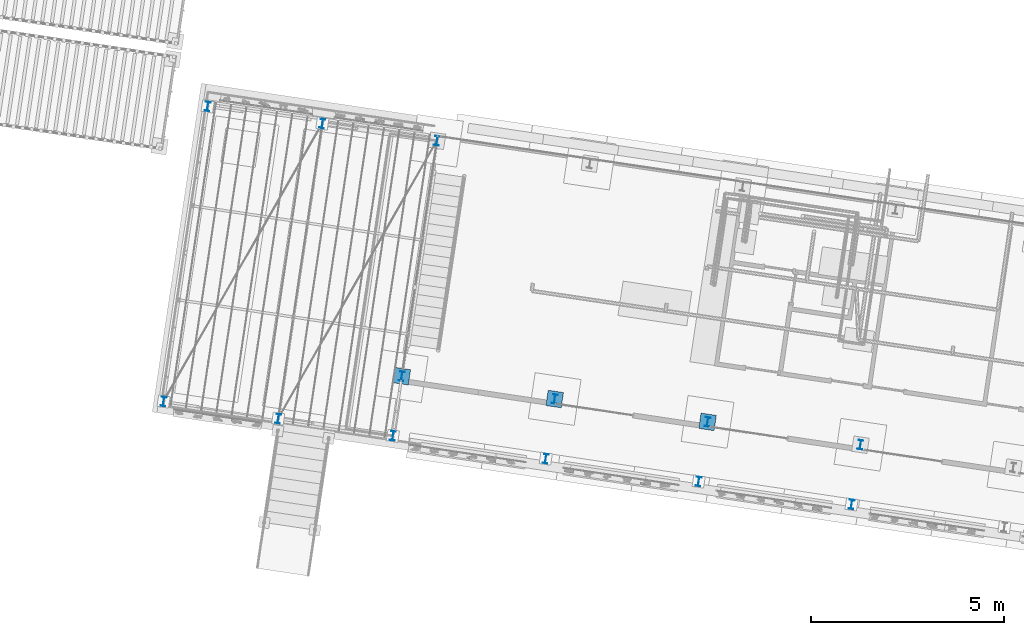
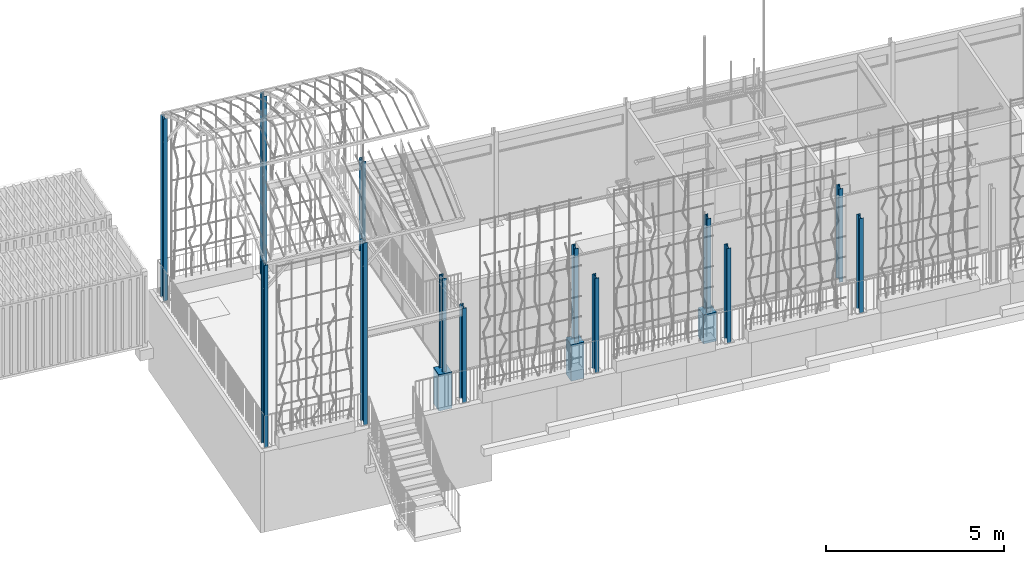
# One storey, part 2 of 142: 16 columns, 1 element without a shape of its own.
"""IFC4 building model written with IfcOpenShell, lengths in metres."""

from ifc_helpers import new_model, si_unit, direction, frame, origin_with_axes, place, context, subcontext, project, spatial, polyline, i_section, outline, extrude, material, material_profile, profile_set, profile_usage, type_object, element, aggregate, save


model = new_model("IFC4")

# Units and contexts
model_context = context("Model", 3, precision=1e-05, world=origin_with_axes(), true_north=direction((0.0, 1.0)))
body_context = subcontext(model_context, "Body", "Model", "MODEL_VIEW")
ifc_project = project(units=[si_unit("VOLUMEUNIT", "CUBIC_METRE"), si_unit("LENGTHUNIT", "METRE"), si_unit("AREAUNIT", "SQUARE_METRE")], contexts=[model_context])

# Site, building, storey
site_placement = place(None, origin_with_axes())
site = spatial("IfcSite", under=ifc_project, at=site_placement, Name="Lares · Rua das Mercês · artigo 4771")
building_placement = place(site_placement, frame((12.0, 10.2, 13.9), z_axis=(0.0, 0.0, 1.0), x_axis=(0.989015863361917, -0.147809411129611, 0.0)))
building = spatial("IfcBuilding", under=site, at=building_placement, Name="Casa Sobreposta")
storey_placement = place(building_placement, origin_with_axes())
storey = spatial("IfcBuildingStorey", under=building, at=storey_placement, Name="00 · Habitação e estacionamento", Elevation=13.9)

# Columns
ifc_material_1 = material(Name="Aço pintado / Stahl lackiert", Category="steel")
ifc_material_profile = material_profile(ifc_material_1, i_section(OverallWidth=0.12, OverallDepth=0.24, WebThickness=0.0062, FlangeThickness=0.0098))
ifc_profile_set = profile_set([ifc_material_profile], Name="IPE240")
ifc_profile_usage_1 = profile_usage(ifc_profile_set)
column_type = type_object("IfcColumnType", Name="IPE240 / steel", PredefinedType="NOTDEFINED", material=ifc_profile_set)
column_1_placement = place(storey_placement, frame((0.0, 0.12, 0.0), z_axis=(0.0, 0.0, 1.0), x_axis=(1.0, 0.0, 0.0)))
element("IfcColumn", 1, at=column_1_placement, inside=storey, type_object=column_type, material=ifc_profile_usage_1, Name="Pilar 1A · IPE240", context=body_context, shape_type="SweptSolid", body=[
    extrude(i_section(OverallWidth=0.12, OverallDepth=0.24, WebThickness=0.0062, FlangeThickness=0.0098), origin_with_axes(), (0.0, 0.0, 1.0), 3.208),
])
ifc_profile_usage_2 = profile_usage(ifc_profile_set)
column_2_placement = place(storey_placement, frame((0.0, 6.28, 0.0), z_axis=(0.0, 0.0, 1.0), x_axis=(1.0, 0.0, 0.0)))
element("IfcColumn", 2, at=column_2_placement, inside=storey, type_object=column_type, material=ifc_profile_usage_2, Name="Pilar 1B · IPE240", context=body_context, shape_type="SweptSolid", body=[
    extrude(i_section(OverallWidth=0.12, OverallDepth=0.24, WebThickness=0.0062, FlangeThickness=0.0098), origin_with_axes(), (0.0, 0.0, 1.0), 3.208),
])
ifc_profile_usage_3 = profile_usage(ifc_profile_set)
column_3_placement = place(storey_placement, frame((4.0, 0.12, 0.0), z_axis=(0.0, 0.0, 1.0), x_axis=(1.0, 0.0, 0.0)))
element("IfcColumn", 3, at=column_3_placement, inside=storey, type_object=column_type, material=ifc_profile_usage_3, Name="Pilar 2A · IPE240", context=body_context, shape_type="SweptSolid", body=[
    extrude(i_section(OverallWidth=0.12, OverallDepth=0.24, WebThickness=0.0062, FlangeThickness=0.0098), origin_with_axes(), (0.0, 0.0, 1.0), 3.208),
])
ifc_profile_usage_4 = profile_usage(ifc_profile_set)
column_4_placement = place(storey_placement, frame((8.0, 0.12, 0.0), z_axis=(0.0, 0.0, 1.0), x_axis=(1.0, 0.0, 0.0)))
element("IfcColumn", 4, at=column_4_placement, inside=storey, type_object=column_type, material=ifc_profile_usage_4, Name="Pilar 3A · IPE240", context=body_context, shape_type="SweptSolid", body=[
    extrude(i_section(OverallWidth=0.12, OverallDepth=0.24, WebThickness=0.0062, FlangeThickness=0.0098), origin_with_axes(), (0.0, 0.0, 1.0), 3.208),
])
ifc_profile_usage_5 = profile_usage(ifc_profile_set)
column_5_placement = place(storey_placement, frame((12.0, 0.12, 0.0), z_axis=(0.0, 0.0, 1.0), x_axis=(1.0, 0.0, 0.0)))
element("IfcColumn", 5, at=column_5_placement, inside=storey, type_object=column_type, material=ifc_profile_usage_5, Name="Pilar 4A · IPE240", context=body_context, shape_type="SweptSolid", body=[
    extrude(i_section(OverallWidth=0.12, OverallDepth=0.24, WebThickness=0.0062, FlangeThickness=0.0098), origin_with_axes(), (0.0, 0.0, 1.0), 3.208),
])

# Assembly, columns
assembly_placement = place(storey_placement, origin_with_axes())
assembly = element("IfcElementAssembly", 6, at=assembly_placement, inside=storey, Name="Pérgola · prolongamento da estufa 6 m", ObjectType="PERGOLA_GREENHOUSE_EXTENSION", PredefinedType="USERDEFINED")
ifc_profile_usage_6 = profile_usage(ifc_profile_set)
column_6_placement = place(assembly_placement, frame((-6.0, -1.44, -0.04), z_axis=(0.0, 0.0, 1.0), x_axis=(1.0, 0.0, 0.0)))
column_6 = element("IfcColumn", 7, at=column_6_placement, type_object=column_type, material=ifc_profile_usage_6, Name="Pérgola · pilar de duplo pé-direito", context=body_context, shape_type="SweptSolid", body=[
    extrude(i_section(OverallWidth=0.12, OverallDepth=0.24, WebThickness=0.0062, FlangeThickness=0.0098), origin_with_axes(), (0.0, 0.0, 1.0), 6.26),
])
ifc_profile_usage_7 = profile_usage(ifc_profile_set)
column_7_placement = place(assembly_placement, frame((-6.0, 6.28, -0.04), z_axis=(0.0, 0.0, 1.0), x_axis=(1.0, 0.0, 0.0)))
column_7 = element("IfcColumn", 8, at=column_7_placement, type_object=column_type, material=ifc_profile_usage_7, Name="Pérgola · pilar de duplo pé-direito", context=body_context, shape_type="SweptSolid", body=[
    extrude(i_section(OverallWidth=0.12, OverallDepth=0.24, WebThickness=0.0062, FlangeThickness=0.0098), origin_with_axes(), (0.0, 0.0, 1.0), 6.26),
])
ifc_profile_usage_8 = profile_usage(ifc_profile_set)
column_8_placement = place(assembly_placement, frame((-3.0, -1.44, -0.04), z_axis=(0.0, 0.0, 1.0), x_axis=(1.0, 0.0, 0.0)))
column_8 = element("IfcColumn", 9, at=column_8_placement, type_object=column_type, material=ifc_profile_usage_8, Name="Pérgola · pilar de duplo pé-direito", context=body_context, shape_type="SweptSolid", body=[
    extrude(i_section(OverallWidth=0.12, OverallDepth=0.24, WebThickness=0.0062, FlangeThickness=0.0098), origin_with_axes(), (0.0, 0.0, 1.0), 6.26),
])
ifc_profile_usage_9 = profile_usage(ifc_profile_set)
column_9_placement = place(assembly_placement, frame((-3.0, 6.28, -0.04), z_axis=(0.0, 0.0, 1.0), x_axis=(1.0, 0.0, 0.0)))
column_9 = element("IfcColumn", 10, at=column_9_placement, type_object=column_type, material=ifc_profile_usage_9, Name="Pérgola · pilar de duplo pé-direito", context=body_context, shape_type="SweptSolid", body=[
    extrude(i_section(OverallWidth=0.12, OverallDepth=0.24, WebThickness=0.0062, FlangeThickness=0.0098), origin_with_axes(), (0.0, 0.0, 1.0), 6.26),
])
aggregate(assembly, [column_6, column_7, column_8, column_9])

# Columns
ifc_profile_usage_10 = profile_usage(ifc_profile_set)
column_10_placement = place(storey_placement, frame((0.0, -1.44, -0.04), z_axis=(0.0, 0.0, 1.0), x_axis=(1.0, 0.0, 0.0)))
element("IfcColumn", 11, at=column_10_placement, inside=storey, type_object=column_type, material=ifc_profile_usage_10, Name="Projeção estufa · pilar sul ao pódio", context=body_context, shape_type="SweptSolid", body=[
    extrude(i_section(OverallWidth=0.12, OverallDepth=0.24, WebThickness=0.0062, FlangeThickness=0.0098), origin_with_axes(), (0.0, 0.0, 1.0), 3.248),
])
ifc_profile_usage_11 = profile_usage(ifc_profile_set)
column_11_placement = place(storey_placement, frame((4.0, -1.44, -0.04), z_axis=(0.0, 0.0, 1.0), x_axis=(1.0, 0.0, 0.0)))
element("IfcColumn", 12, at=column_11_placement, inside=storey, type_object=column_type, material=ifc_profile_usage_11, Name="Projeção estufa · pilar sul ao pódio", context=body_context, shape_type="SweptSolid", body=[
    extrude(i_section(OverallWidth=0.12, OverallDepth=0.24, WebThickness=0.0062, FlangeThickness=0.0098), origin_with_axes(), (0.0, 0.0, 1.0), 3.248),
])
ifc_profile_usage_12 = profile_usage(ifc_profile_set)
column_12_placement = place(storey_placement, frame((8.0, -1.44, -0.04), z_axis=(0.0, 0.0, 1.0), x_axis=(1.0, 0.0, 0.0)))
element("IfcColumn", 13, at=column_12_placement, inside=storey, type_object=column_type, material=ifc_profile_usage_12, Name="Projeção estufa · pilar sul ao pódio", context=body_context, shape_type="SweptSolid", body=[
    extrude(i_section(OverallWidth=0.12, OverallDepth=0.24, WebThickness=0.0062, FlangeThickness=0.0098), origin_with_axes(), (0.0, 0.0, 1.0), 3.248),
])
ifc_profile_usage_13 = profile_usage(ifc_profile_set)
column_13_placement = place(storey_placement, frame((12.0, -1.44, -0.04), z_axis=(0.0, 0.0, 1.0), x_axis=(1.0, 0.0, 0.0)))
element("IfcColumn", 14, at=column_13_placement, inside=storey, type_object=column_type, material=ifc_profile_usage_13, Name="Projeção estufa · pilar sul ao pódio", context=body_context, shape_type="SweptSolid", body=[
    extrude(i_section(OverallWidth=0.12, OverallDepth=0.24, WebThickness=0.0062, FlangeThickness=0.0098), origin_with_axes(), (0.0, 0.0, 1.0), 3.248),
])
ifc_material_2 = material(Name="Betão armado / Stahlbeton", Category="concrete")
column_14_placement = place(storey_placement, frame((0.0, 0.0, -1.25), z_axis=(0.0, 0.0, 1.0), x_axis=(1.0, 0.0, 0.0)))
element("IfcColumn", 15, at=column_14_placement, inside=storey, material=ifc_material_2, Name="Pedestal 1A · betão 400 x 400", context=body_context, shape_type="SweptSolid", body=[
    extrude(outline(polyline([(0.2, -0.08), (0.2, 0.32), (-0.2, 0.32), (-0.2, -0.08), (0.2, -0.08)])), origin_with_axes(), (0.0, 0.0, 1.0), 1.25),
])
column_15_placement = place(storey_placement, frame((0.0, 0.0, -1.25), z_axis=(0.0, 0.0, 1.0), x_axis=(1.0, 0.0, 0.0)))
element("IfcColumn", 16, at=column_15_placement, inside=storey, material=ifc_material_2, Name="Pedestal 2A · betão 400 x 400", context=body_context, shape_type="SweptSolid", body=[
    extrude(outline(polyline([(4.2, -0.08), (4.2, 0.32), (3.8, 0.32), (3.8, -0.08), (4.2, -0.08)])), origin_with_axes(), (0.0, 0.0, 1.0), 1.25),
])
column_16_placement = place(storey_placement, frame((0.0, 0.0, -1.0), z_axis=(0.0, 0.0, 1.0), x_axis=(1.0, 0.0, 0.0)))
element("IfcColumn", 17, at=column_16_placement, inside=storey, material=ifc_material_2, Name="Pedestal 3A · betão 400 x 400", context=body_context, shape_type="SweptSolid", body=[
    extrude(outline(polyline([(8.2, -0.08), (8.2, 0.32), (7.8, 0.32), (7.8, -0.08), (8.2, -0.08)])), origin_with_axes(), (0.0, 0.0, 1.0), 1.0),
])

save(model, "model.ifc")
